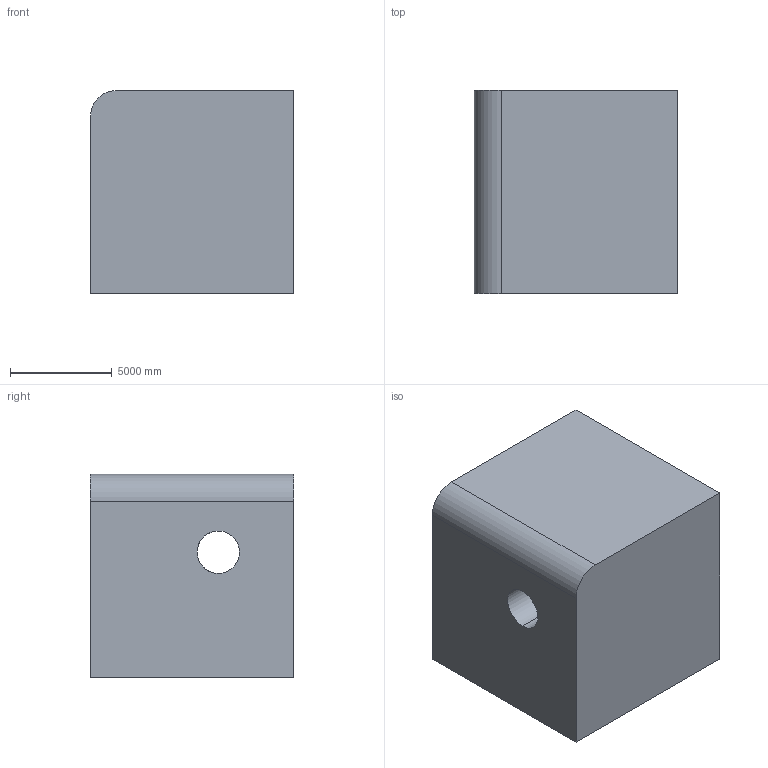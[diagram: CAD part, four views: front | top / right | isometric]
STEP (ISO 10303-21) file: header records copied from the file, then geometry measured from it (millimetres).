
FILE_DESCRIPTION (( 'STEP AP203' ), '1' );
FILE_NAME ('234.STEP', '2022-07-28T13:59:37', ( 'user' ), ( '' ), 'SwSTEP 2.0', 'SolidWorks 2021', '' );
FILE_SCHEMA (( 'CONFIG_CONTROL_DESIGN' ));
Length unit declared in the file: centimetre
Products named in the file (1): 234
Bounding box: 10000 x 10000 x 10000 mm (x, y, z)
Volume: 955708034507.7 mm3; surface area: 660683314.8 mm2
Topology: 1 solids, 1 shells, 14 faces, 36 edges, 24 vertices
Faces by surface type: plane 11, cylinder 3
Entity records: 509 total; most frequent: CARTESIAN_POINT 75, DIRECTION 74, ORIENTED_EDGE 72, EDGE_CURVE 36, LINE 28, VECTOR 28, VERTEX_POINT 24, AXIS2_PLACEMENT_3D 23
